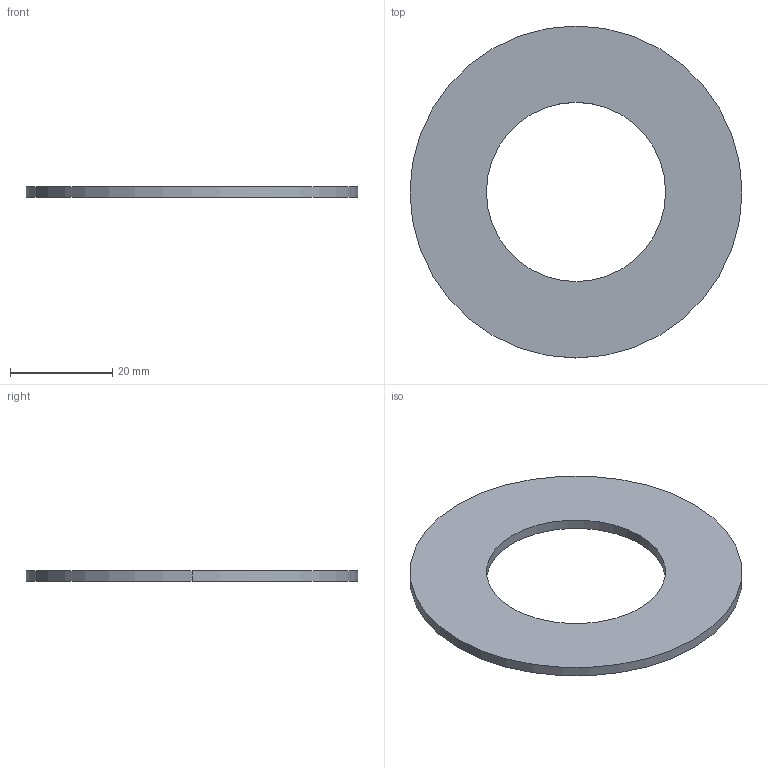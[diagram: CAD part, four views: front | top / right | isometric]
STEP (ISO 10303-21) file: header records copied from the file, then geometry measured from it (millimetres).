
FILE_DESCRIPTION (( 'STEP AP203' ), '1' );
FILE_NAME ('CY-510-X006.step', '2023-12-27T04:43:49', ( '1' ), ( '' ), 'SwSTEP 2.0', 'SolidWorks 2022', '' );
FILE_SCHEMA (( 'CONFIG_CONTROL_DESIGN' ));
Length unit declared in the file: millimetre
Products named in the file (1): CY-510-X006
Bounding box: 65 x 65 x 2 mm (x, y, z)
Volume: 4701.4 mm3; surface area: 5330.3 mm2
Topology: 1 solids, 1 shells, 6 faces, 12 edges, 8 vertices
Faces by surface type: cylinder 4, plane 2
Entity records: 245 total; most frequent: DIRECTION 34, CARTESIAN_POINT 27, ORIENTED_EDGE 24, AXIS2_PLACEMENT_3D 15, EDGE_CURVE 12, VERTEX_POINT 8, EDGE_LOOP 8, PERSON_AND_ORGANIZATION 8
